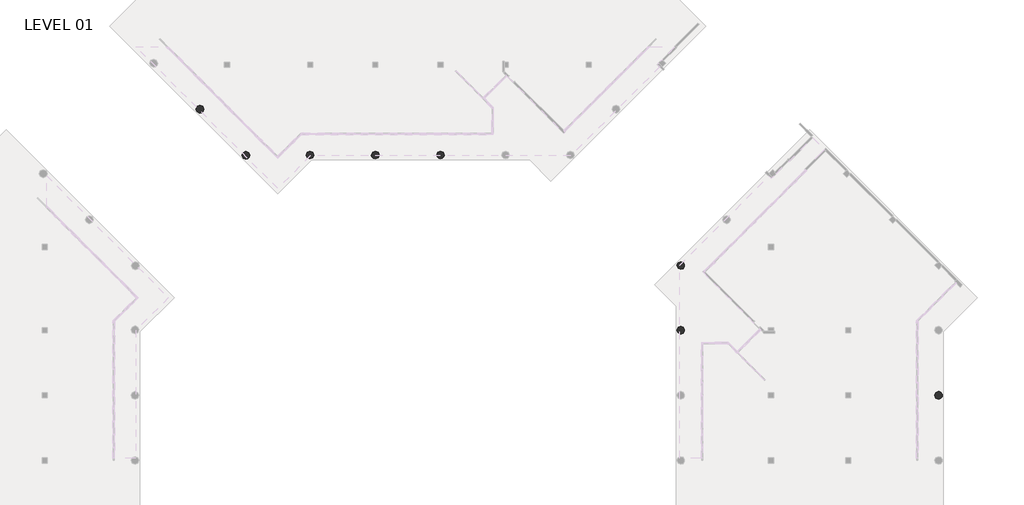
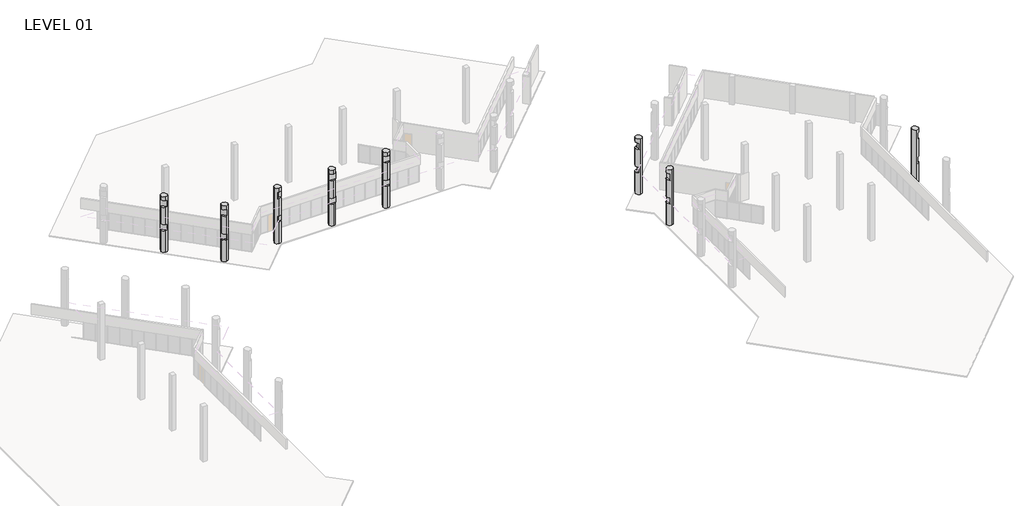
# One storey, part 22 of 24: 8 columns.
"""IFC4 building model written with IfcOpenShell, lengths in millimetres."""

from ifc_helpers import new_model, si_unit, frame, origin, place, context, project, spatial, circle_curve, element, save
from ifc_brep_helpers import plane_surface, cylinder_surface, advanced_brep

model = new_model("IFC4")

# Units and contexts
model_context = context("Model", 3, world=origin())
ifc_project = project(units=[si_unit("LENGTHUNIT", "METRE", prefix="MILLI")], contexts=[model_context])

# Site, building, storey
site = spatial("IfcSite", under=ifc_project)
building = spatial("IfcBuilding", under=site)
storey = spatial("IfcBuildingStorey", under=building, Name="LEVEL 01", Elevation=0.0)

# Columns
placement = place(None, origin())
element("IfcColumn", 1, ObjectType="Round Column : 36\" Diameter", at=placement, inside=storey, context=model_context, shape_type="AdvancedBrep", body=[
    advanced_brep(
    [(61765.4347164, 76983.0834906, 0.0), (61765.4347164, 76068.6834906, 0.0), (61308.2347164, 76525.8834906, 0.0), (61765.4347164, 76983.0834906, 3225.8), (61962.4716429, 76938.446564, 3225.8), (61962.4716429, 76938.446564, 4140.2), (61765.4347164, 76983.0834906, 4140.2), (61765.4347164, 76983.0834906, 6731.0), (61962.4716429, 76938.446564, 6731.0), (61962.4716429, 76938.446564, 7721.6), (61765.4347164, 76983.0834906, 7721.6), (61765.4347164, 76983.0834906, 8280.4), (61765.4347164, 76068.6834906, 8280.4), (61308.2347164, 76525.8834906, 3225.8), (61442.145496, 76849.1727109, 3225.8), (61308.2347164, 76525.8834906, 8280.4), (61308.2347164, 76525.8834906, 7721.6), (61613.0347164, 76094.8311968, 7721.6), (61613.0347164, 76094.8311968, 6731.0), (61308.2347164, 76525.8834906, 6731.0), (61308.2347164, 76525.8834906, 4140.2), (61352.8716429, 76328.846564, 4140.2), (61613.0347164, 76094.8311968, 4140.2), (61613.0347164, 76094.8311968, 3225.8), (61352.8716429, 76328.846564, 3225.8), (61613.0347164, 76956.9357844, 6731.0), (61613.0347164, 76589.0096375, 6731.0), (61613.0347164, 76589.0096375, 7721.6), (61613.0347164, 76956.9357844, 7721.6), (61442.145496, 76849.1727109, 6731.0), (61442.145496, 76849.1727109, 7721.6), (61613.0347164, 76589.0096375, 3225.8), (61613.0347164, 76589.0096375, 4140.2), (61442.145496, 76849.1727109, 4140.2)],
    [
        (0, 1, circle_curve(frame((61765.4347164, 76525.8834906, 0.0), z_axis=(0.0, 0.0, -1.0), x_axis=(0.0, -1.0, 0.0)), 457.2)),
        (1, 2, circle_curve(frame((61765.4347164, 76525.8834906, 0.0), z_axis=(0.0, 0.0, -1.0), x_axis=(0.0, -1.0, 0.0)), 457.2)),
        (2, 0, circle_curve(frame((61765.4347164, 76525.8834906, 0.0), z_axis=(0.0, 0.0, -1.0), x_axis=(0.0, -1.0, 0.0)), 457.2)),
        (0, 3),
        (3, 4, circle_curve(frame((61765.4347164, 76525.8834906, 3225.8), z_axis=(0.0, 0.0, -1.0), x_axis=(0.0, -1.0, 0.0)), 457.2)),
        (4, 5),
        (5, 6, circle_curve(frame((61765.4347164, 76525.8834906, 4140.2), z_axis=(0.0, 0.0, 1.0), x_axis=(0.0, -1.0, 0.0)), 457.2)),
        (6, 7),
        (7, 8, circle_curve(frame((61765.4347164, 76525.8834906, 6731.0), z_axis=(0.0, 0.0, -1.0), x_axis=(0.0, -1.0, 0.0)), 457.2)),
        (8, 9),
        (9, 10, circle_curve(frame((61765.4347164, 76525.8834906, 7721.6), z_axis=(0.0, 0.0, 1.0), x_axis=(0.0, -1.0, 0.0)), 457.2)),
        (10, 11),
        (11, 12, circle_curve(frame((61765.4347164, 76525.8834906, 8280.4), z_axis=(0.0, 0.0, -1.0), x_axis=(0.0, -1.0, 0.0)), 457.2)),
        (12, 1),
        (2, 13),
        (13, 14, circle_curve(frame((61765.4347164, 76525.8834906, 3225.8), z_axis=(0.0, 0.0, -1.0), x_axis=(0.0, -1.0, 0.0)), 457.2)),
        (14, 3, circle_curve(frame((61765.4347164, 76525.8834906, 3225.8), z_axis=(0.0, 0.0, -1.0), x_axis=(0.0, -1.0, 0.0)), 457.2)),
        (12, 15, circle_curve(frame((61765.4347164, 76525.8834906, 8280.4), z_axis=(0.0, 0.0, -1.0), x_axis=(0.0, -1.0, 0.0)), 457.2)),
        (15, 16),
        (16, 17, circle_curve(frame((61765.4347164, 76525.8834906, 7721.6), z_axis=(0.0, 0.0, 1.0), x_axis=(0.0, -1.0, 0.0)), 457.2)),
        (17, 18),
        (18, 19, circle_curve(frame((61765.4347164, 76525.8834906, 6731.0), z_axis=(0.0, 0.0, -1.0), x_axis=(0.0, -1.0, 0.0)), 457.2)),
        (19, 20),
        (20, 21, circle_curve(frame((61765.4347164, 76525.8834906, 4140.2), z_axis=(0.0, 0.0, 1.0), x_axis=(0.0, -1.0, 0.0)), 457.2)),
        (21, 22, circle_curve(frame((61765.4347164, 76525.8834906, 4140.2), z_axis=(0.0, 0.0, 1.0), x_axis=(0.0, -1.0, 0.0)), 457.2)),
        (22, 23),
        (23, 24, circle_curve(frame((61765.4347164, 76525.8834906, 3225.8), z_axis=(0.0, 0.0, -1.0), x_axis=(0.0, -1.0, 0.0)), 457.2)),
        (24, 13, circle_curve(frame((61765.4347164, 76525.8834906, 3225.8), z_axis=(0.0, 0.0, -1.0), x_axis=(0.0, -1.0, 0.0)), 457.2)),
        (11, 15, circle_curve(frame((61765.4347164, 76525.8834906, 8280.4), z_axis=(0.0, 0.0, 1.0), x_axis=(0.0, -1.0, 0.0)), 457.2)),
        (7, 25, circle_curve(frame((61765.4347164, 76525.8834906, 6731.0), z_axis=(0.0, 0.0, 1.0), x_axis=(0.0, -1.0, 0.0)), 457.2)),
        (25, 26),
        (26, 8),
        (9, 27),
        (27, 28),
        (28, 10, circle_curve(frame((61765.4347164, 76525.8834906, 7721.6), z_axis=(0.0, 0.0, -1.0), x_axis=(0.0, -1.0, 0.0)), 457.2)),
        (17, 27),
        (27, 26),
        (26, 18),
        (29, 19, circle_curve(frame((61765.4347164, 76525.8834906, 6731.0), z_axis=(0.0, 0.0, 1.0), x_axis=(0.0, -1.0, 0.0)), 457.2)),
        (25, 29, circle_curve(frame((61765.4347164, 76525.8834906, 6731.0), z_axis=(0.0, 0.0, 1.0), x_axis=(0.0, -1.0, 0.0)), 457.2)),
        (16, 30, circle_curve(frame((61765.4347164, 76525.8834906, 7721.6), z_axis=(0.0, 0.0, -1.0), x_axis=(0.0, -1.0, 0.0)), 457.2)),
        (30, 28, circle_curve(frame((61765.4347164, 76525.8834906, 7721.6), z_axis=(0.0, 0.0, -1.0), x_axis=(0.0, -1.0, 0.0)), 457.2)),
        (4, 31),
        (31, 32),
        (32, 5),
        (24, 31),
        (32, 21),
        (20, 33, circle_curve(frame((61765.4347164, 76525.8834906, 4140.2), z_axis=(0.0, 0.0, -1.0), x_axis=(0.0, -1.0, 0.0)), 457.2)),
        (33, 6, circle_curve(frame((61765.4347164, 76525.8834906, 4140.2), z_axis=(0.0, 0.0, -1.0), x_axis=(0.0, -1.0, 0.0)), 457.2)),
        (31, 23),
        (22, 32),
    ],
    [
        plane_surface(frame((61765.4347164, 76068.6834906, 0.0), z_axis=(0.0, 0.0, -1.0), x_axis=(1.0, 0.0, 0.0))),
        cylinder_surface(frame((61765.4347164, 76525.8834906, 0.0), z_axis=(0.0, 0.0, 1.0), x_axis=(0.0, -1.0, 0.0)), 457.2),
        plane_surface(frame((61765.4347164, 76068.6834906, 8280.4), z_axis=(0.0, 0.0, 1.0), x_axis=(-1.0, 0.0, 0.0))),
        plane_surface(frame((76742.0966429, 92149.1238578, 6731.0), z_axis=(0.0, 0.0, 1.0000000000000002), x_axis=(0.7071067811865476, -0.7071067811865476, 0.0))),
        plane_surface(frame((61352.8716429, 76759.8988578, 7721.6), z_axis=(0.0, 0.0, -1.0000000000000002), x_axis=(0.7071067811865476, -0.7071067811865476, 0.0))),
        plane_surface(frame((61613.0347164, 71810.4559648, 6731.0), z_axis=(-1.0, 0.0, 0.0), x_axis=(0.0, 1.0, 0.0))),
        plane_surface(frame((61308.2347164, 76652.1357844, 6731.0), z_axis=(0.0, 0.0, 1.0), x_axis=(1.0, 0.0, 0.0))),
        plane_surface(frame((61308.2347164, 46172.1357844, 7721.6), z_axis=(0.0, 0.0, -1.0), x_axis=(1.0, 0.0, 0.0))),
        plane_surface(frame((65300.0829574, 80276.0578785, 3225.8), z_axis=(-0.7071067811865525, 0.7071067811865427, 0.0), x_axis=(0.7071067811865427, 0.7071067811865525, 0.0))),
        plane_surface(frame((71900.9693491, 87307.996564, 3225.8), z_axis=(0.0, 0.0, 1.0000000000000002), x_axis=(0.7071067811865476, -0.7071067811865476, 0.0))),
        plane_surface(frame((58963.5948066, 74370.6220215, 4140.2), z_axis=(0.0, 0.0, -1.0000000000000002), x_axis=(0.7071067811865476, -0.7071067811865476, 0.0))),
        plane_surface(frame((61613.0347164, 71810.4559648, 3225.8), z_axis=(-1.0, 0.0, 0.0), x_axis=(0.0, 1.0, 0.0))),
        plane_surface(frame((61308.2347164, 76652.1357844, 3225.8), z_axis=(0.0, 0.0, 1.0), x_axis=(1.0, 0.0, 0.0))),
        plane_surface(frame((61308.2347164, 46172.1357844, 4140.2), z_axis=(0.0, 0.0, -1.0), x_axis=(1.0, 0.0, 0.0))),
        plane_surface(frame((76955.4438143, 91931.4187354, 6731.0), z_axis=(-0.7071067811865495, 0.7071067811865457, 0.0), x_axis=(0.7071067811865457, 0.7071067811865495, 0.0))),
    ],
    [
        (0, [[1, 2, 3]]),
        (1, [[-1, 4, 5, 6, 7, 8, 9, 10, 11, 12, 13, 14]]),
        (1, [[-3, 15, 16, 17, -4]]),
        (1, [[-2, -14, 18, 19, 20, 21, 22, 23, 24, 25, 26, 27, 28, -15]]),
        (2, [[-13, 29, -18]]),
        (3, [[-9, 30, 31, 32]]),
        (4, [[-11, 33, 34, 35]]),
        (5, [[-21, 36, 37, 38]]),
        (6, [[39, -22, -38, -31, 40]]),
        (7, [[41, 42, -34, -36, -20]]),
        (1, [[-29, -12, -35, -42, -41, -19]]),
        (8, [[-6, 43, 44, 45]]),
        (9, [[-5, -17, -16, -28, 46, -43]]),
        (10, [[-7, -45, 47, -24, 48, 49]]),
        (1, [[-30, -8, -49, -48, -23, -39, -40]]),
        (11, [[50, -26, 51, -44]]),
        (12, [[-50, -46, -27]]),
        (13, [[-51, -25, -47]]),
        (14, [[-32, -37, -33, -10]]),
    ],
),
])
element("IfcColumn", 2, ObjectType="Round Column : 36\" Diameter", at=placement, inside=storey, context=model_context, shape_type="AdvancedBrep", body=[
    advanced_brep(
    [(61765.4347164, 69405.1675885, 0.0), (61765.4347164, 68490.7675885, 0.0), (61308.2347164, 68947.9675885, 0.0), (61765.4347164, 69405.1675885, 8280.4), (61765.4347164, 68490.7675885, 8280.4), (61308.2347164, 68947.9675885, 3225.8), (61613.0347164, 69379.0198823, 3225.8), (61613.0347164, 69379.0198823, 4140.2), (61308.2347164, 68947.9675885, 4140.2), (61308.2347164, 68947.9675885, 6731.0), (61613.0347164, 69379.0198823, 6731.0), (61613.0347164, 69379.0198823, 7721.6), (61308.2347164, 68947.9675885, 7721.6), (61308.2347164, 68947.9675885, 8280.4), (61613.0347164, 68516.9152947, 7721.6), (61613.0347164, 68516.9152947, 6731.0), (61613.0347164, 68516.9152947, 4140.2), (61613.0347164, 68516.9152947, 3225.8)],
    [
        (0, 1, circle_curve(frame((61765.4347164, 68947.9675885, 0.0), z_axis=(0.0, 0.0, -1.0), x_axis=(0.0, -1.0, 0.0)), 457.2)),
        (1, 2, circle_curve(frame((61765.4347164, 68947.9675885, 0.0), z_axis=(0.0, 0.0, -1.0), x_axis=(0.0, -1.0, 0.0)), 457.2)),
        (2, 0, circle_curve(frame((61765.4347164, 68947.9675885, 0.0), z_axis=(0.0, 0.0, -1.0), x_axis=(0.0, -1.0, 0.0)), 457.2)),
        (0, 3),
        (3, 4, circle_curve(frame((61765.4347164, 68947.9675885, 8280.4), z_axis=(0.0, 0.0, -1.0), x_axis=(0.0, -1.0, 0.0)), 457.2)),
        (4, 1),
        (2, 5),
        (5, 6, circle_curve(frame((61765.4347164, 68947.9675885, 3225.8), z_axis=(0.0, 0.0, -1.0), x_axis=(0.0, -1.0, 0.0)), 457.2)),
        (6, 7),
        (7, 8, circle_curve(frame((61765.4347164, 68947.9675885, 4140.2), z_axis=(0.0, 0.0, 1.0), x_axis=(0.0, -1.0, 0.0)), 457.2)),
        (8, 9),
        (9, 10, circle_curve(frame((61765.4347164, 68947.9675885, 6731.0), z_axis=(0.0, 0.0, -1.0), x_axis=(0.0, -1.0, 0.0)), 457.2)),
        (10, 11),
        (11, 12, circle_curve(frame((61765.4347164, 68947.9675885, 7721.6), z_axis=(0.0, 0.0, 1.0), x_axis=(0.0, -1.0, 0.0)), 457.2)),
        (12, 13),
        (13, 3, circle_curve(frame((61765.4347164, 68947.9675885, 8280.4), z_axis=(0.0, 0.0, -1.0), x_axis=(0.0, -1.0, 0.0)), 457.2)),
        (4, 13, circle_curve(frame((61765.4347164, 68947.9675885, 8280.4), z_axis=(0.0, 0.0, -1.0), x_axis=(0.0, -1.0, 0.0)), 457.2)),
        (12, 14, circle_curve(frame((61765.4347164, 68947.9675885, 7721.6), z_axis=(0.0, 0.0, 1.0), x_axis=(0.0, -1.0, 0.0)), 457.2)),
        (14, 15),
        (15, 9, circle_curve(frame((61765.4347164, 68947.9675885, 6731.0), z_axis=(0.0, 0.0, -1.0), x_axis=(0.0, -1.0, 0.0)), 457.2)),
        (8, 16, circle_curve(frame((61765.4347164, 68947.9675885, 4140.2), z_axis=(0.0, 0.0, 1.0), x_axis=(0.0, -1.0, 0.0)), 457.2)),
        (16, 17),
        (17, 5, circle_curve(frame((61765.4347164, 68947.9675885, 3225.8), z_axis=(0.0, 0.0, -1.0), x_axis=(0.0, -1.0, 0.0)), 457.2)),
        (6, 17),
        (16, 7),
        (10, 15),
        (14, 11),
    ],
    [
        plane_surface(frame((61765.4347164, 68490.7675885, 0.0), z_axis=(0.0, 0.0, -1.0), x_axis=(1.0, 0.0, 0.0))),
        cylinder_surface(frame((61765.4347164, 68947.9675885, 0.0), z_axis=(0.0, 0.0, 1.0), x_axis=(0.0, -1.0, 0.0)), 457.2),
        plane_surface(frame((61765.4347164, 68490.7675885, 8280.4), z_axis=(0.0, 0.0, 1.0), x_axis=(-1.0, 0.0, 0.0))),
        plane_surface(frame((61613.0347164, 71810.4559648, 3225.8), z_axis=(-1.0, 0.0, 0.0), x_axis=(0.0, 1.0, 0.0))),
        plane_surface(frame((61308.2347164, 76652.1357844, 3225.8), z_axis=(0.0, 0.0, 1.0), x_axis=(1.0, 0.0, 0.0))),
        plane_surface(frame((61308.2347164, 46172.1357844, 4140.2), z_axis=(0.0, 0.0, -1.0), x_axis=(1.0, 0.0, 0.0))),
        plane_surface(frame((61613.0347164, 71810.4559648, 6731.0), z_axis=(-1.0, 0.0, 0.0), x_axis=(0.0, 1.0, 0.0))),
        plane_surface(frame((61308.2347164, 76652.1357844, 6731.0), z_axis=(0.0, 0.0, 1.0), x_axis=(1.0, 0.0, 0.0))),
        plane_surface(frame((61308.2347164, 46172.1357844, 7721.6), z_axis=(0.0, 0.0, -1.0), x_axis=(1.0, 0.0, 0.0))),
    ],
    [
        (0, [[1, 2, 3]]),
        (1, [[-1, 4, 5, 6]]),
        (1, [[-3, 7, 8, 9, 10, 11, 12, 13, 14, 15, 16, -4]]),
        (1, [[-2, -6, 17, -15, 18, 19, 20, -11, 21, 22, 23, -7]]),
        (2, [[-5, -16, -17]]),
        (3, [[-9, 24, -22, 25]]),
        (4, [[-8, -23, -24]]),
        (5, [[-10, -25, -21]]),
        (6, [[26, -19, 27, -13]]),
        (7, [[-26, -12, -20]]),
        (8, [[-27, -18, -14]]),
    ],
),
])
element("IfcColumn", 3, ObjectType="Round Column : 36\" Diameter", at=placement, inside=storey, context=model_context, shape_type="AdvancedBrep", body=[
    advanced_brep(
    [(91934.2847164, 61785.1675885, 0.0), (91934.2847164, 60870.7675885, 0.0), (91477.0847164, 61327.9675885, 0.0), (91934.2847164, 61785.1675885, 8280.4), (91934.2847164, 60870.7675885, 8280.4), (92086.6847164, 60896.9152947, 3225.8), (92086.6847164, 60896.9152947, 4140.2), (92391.4847164, 61327.9675885, 4140.2), (92086.6847164, 61759.0198823, 4140.2), (92086.6847164, 61759.0198823, 3225.8), (92391.4847164, 61327.9675885, 3225.8), (92086.6847164, 60896.9152947, 6731.0), (92086.6847164, 60896.9152947, 7721.6), (92391.4847164, 61327.9675885, 7721.6), (92086.6847164, 61759.0198823, 7721.6), (92086.6847164, 61759.0198823, 6731.0), (92391.4847164, 61327.9675885, 6731.0), (91477.0847164, 61327.9675885, 8280.4)],
    [
        (0, 1, circle_curve(frame((91934.2847164, 61327.9675885, 0.0), z_axis=(0.0, 0.0, -1.0), x_axis=(0.0, -1.0, 0.0)), 457.2)),
        (1, 2, circle_curve(frame((91934.2847164, 61327.9675885, 0.0), z_axis=(0.0, 0.0, -1.0), x_axis=(0.0, -1.0, 0.0)), 457.2)),
        (2, 0, circle_curve(frame((91934.2847164, 61327.9675885, 0.0), z_axis=(0.0, 0.0, -1.0), x_axis=(0.0, -1.0, 0.0)), 457.2)),
        (0, 3),
        (3, 4, circle_curve(frame((91934.2847164, 61327.9675885, 8280.4), z_axis=(0.0, 0.0, -1.0), x_axis=(0.0, -1.0, 0.0)), 457.2)),
        (4, 1),
        (5, 6),
        (6, 7, circle_curve(frame((91934.2847164, 61327.9675885, 4140.2), z_axis=(0.0, 0.0, 1.0), x_axis=(0.0, -1.0, 0.0)), 457.2)),
        (7, 8, circle_curve(frame((91934.2847164, 61327.9675885, 4140.2), z_axis=(0.0, 0.0, 1.0), x_axis=(0.0, -1.0, 0.0)), 457.2)),
        (8, 9),
        (9, 10, circle_curve(frame((91934.2847164, 61327.9675885, 3225.8), z_axis=(0.0, 0.0, -1.0), x_axis=(0.0, -1.0, 0.0)), 457.2)),
        (10, 5, circle_curve(frame((91934.2847164, 61327.9675885, 3225.8), z_axis=(0.0, 0.0, -1.0), x_axis=(0.0, -1.0, 0.0)), 457.2)),
        (11, 12),
        (12, 13, circle_curve(frame((91934.2847164, 61327.9675885, 7721.6), z_axis=(0.0, 0.0, 1.0), x_axis=(0.0, -1.0, 0.0)), 457.2)),
        (13, 14, circle_curve(frame((91934.2847164, 61327.9675885, 7721.6), z_axis=(0.0, 0.0, 1.0), x_axis=(0.0, -1.0, 0.0)), 457.2)),
        (14, 15),
        (15, 16, circle_curve(frame((91934.2847164, 61327.9675885, 6731.0), z_axis=(0.0, 0.0, -1.0), x_axis=(0.0, -1.0, 0.0)), 457.2)),
        (16, 11, circle_curve(frame((91934.2847164, 61327.9675885, 6731.0), z_axis=(0.0, 0.0, -1.0), x_axis=(0.0, -1.0, 0.0)), 457.2)),
        (2, 17),
        (17, 3, circle_curve(frame((91934.2847164, 61327.9675885, 8280.4), z_axis=(0.0, 0.0, -1.0), x_axis=(0.0, -1.0, 0.0)), 457.2)),
        (4, 17, circle_curve(frame((91934.2847164, 61327.9675885, 8280.4), z_axis=(0.0, 0.0, -1.0), x_axis=(0.0, -1.0, 0.0)), 457.2)),
        (5, 9),
        (8, 6),
        (11, 15),
        (14, 12),
    ],
    [
        plane_surface(frame((91934.2847164, 60870.7675885, 0.0), z_axis=(0.0, 0.0, -1.0), x_axis=(1.0, 0.0, 0.0))),
        cylinder_surface(frame((91934.2847164, 61327.9675885, 0.0), z_axis=(0.0, 0.0, 1.0), x_axis=(0.0, -1.0, 0.0)), 457.2),
        plane_surface(frame((91934.2847164, 60870.7675885, 8280.4), z_axis=(0.0, 0.0, 1.0), x_axis=(-1.0, 0.0, 0.0))),
        plane_surface(frame((92086.6847164, 38320.6732457, 3225.8), z_axis=(1.0, 0.0, 0.0), x_axis=(0.0, -1.0, 0.0))),
        plane_surface(frame((92391.4847164, 38383.7993926, 3225.8), z_axis=(0.0, 0.0, 1.0), x_axis=(-1.0, 0.0, 0.0))),
        plane_surface(frame((92391.4847164, 68863.7993926, 4140.2), z_axis=(0.0, 0.0, -1.0), x_axis=(-1.0, 0.0, 0.0))),
        plane_surface(frame((92086.6847164, 38320.6732457, 6731.0), z_axis=(1.0, 0.0, 0.0), x_axis=(0.0, -1.0, 0.0))),
        plane_surface(frame((92391.4847164, 38383.7993926, 6731.0), z_axis=(0.0, 0.0, 1.0), x_axis=(-1.0, 0.0, 0.0))),
        plane_surface(frame((92391.4847164, 68863.7993926, 7721.6), z_axis=(0.0, 0.0, -1.0), x_axis=(-1.0, 0.0, 0.0))),
    ],
    [
        (0, [[1, 2, 3]]),
        (1, [[-1, 4, 5, 6], [7, 8, 9, 10, 11, 12], [13, 14, 15, 16, 17, 18]]),
        (1, [[-3, 19, 20, -4]]),
        (1, [[-2, -6, 21, -19]]),
        (2, [[-5, -20, -21]]),
        (3, [[-7, 22, -10, 23]]),
        (4, [[-12, -11, -22]]),
        (5, [[-9, -8, -23]]),
        (6, [[24, -16, 25, -13]]),
        (7, [[-24, -18, -17]]),
        (8, [[-25, -15, -14]]),
    ],
),
])
element("IfcColumn", 4, ObjectType="Round Column : 36\" Diameter", at=placement, inside=storey, context=model_context, shape_type="AdvancedBrep", body=[
    advanced_brep(
    [(33178.75, 89457.4523049, 0.0), (34093.15, 89457.4523049, 0.0), (33635.95, 89000.2523049, 0.0), (33178.75, 89457.4523049, 8280.4), (34093.15, 89457.4523049, 8280.4), (33635.95, 89000.2523049, 8280.4), (33635.95, 89000.2523049, 7721.6), (34067.0022938, 89305.0523049, 7721.6), (34067.0022938, 89305.0523049, 6731.0), (33635.95, 89000.2523049, 6731.0), (33635.95, 89000.2523049, 4140.2), (34067.0022938, 89305.0523049, 4140.2), (34067.0022938, 89305.0523049, 3225.8), (33635.95, 89000.2523049, 3225.8), (33204.8977062, 89305.0523049, 3225.8), (33204.8977062, 89305.0523049, 4140.2), (33204.8977062, 89305.0523049, 6731.0), (33204.8977062, 89305.0523049, 7721.6)],
    [
        (0, 1, circle_curve(frame((33635.95, 89457.4523049, 0.0), z_axis=(0.0, 0.0, -1.0), x_axis=(-1.0, 0.0, 0.0)), 457.2)),
        (1, 2, circle_curve(frame((33635.95, 89457.4523049, 0.0), z_axis=(0.0, 0.0, -1.0), x_axis=(-1.0, 0.0, 0.0)), 457.2)),
        (2, 0, circle_curve(frame((33635.95, 89457.4523049, 0.0), z_axis=(0.0, 0.0, -1.0), x_axis=(-1.0, 0.0, 0.0)), 457.2)),
        (0, 3),
        (3, 4, circle_curve(frame((33635.95, 89457.4523049, 8280.4), z_axis=(0.0, 0.0, -1.0), x_axis=(-1.0, 0.0, 0.0)), 457.2)),
        (4, 1),
        (4, 5, circle_curve(frame((33635.95, 89457.4523049, 8280.4), z_axis=(0.0, 0.0, -1.0), x_axis=(-1.0, 0.0, 0.0)), 457.2)),
        (5, 6),
        (6, 7, circle_curve(frame((33635.95, 89457.4523049, 7721.6), z_axis=(0.0, 0.0, 1.0), x_axis=(-1.0, 0.0, 0.0)), 457.2)),
        (7, 8),
        (8, 9, circle_curve(frame((33635.95, 89457.4523049, 6731.0), z_axis=(0.0, 0.0, -1.0), x_axis=(-1.0, 0.0, 0.0)), 457.2)),
        (9, 10),
        (10, 11, circle_curve(frame((33635.95, 89457.4523049, 4140.2), z_axis=(0.0, 0.0, 1.0), x_axis=(-1.0, 0.0, 0.0)), 457.2)),
        (11, 12),
        (12, 13, circle_curve(frame((33635.95, 89457.4523049, 3225.8), z_axis=(0.0, 0.0, -1.0), x_axis=(-1.0, 0.0, 0.0)), 457.2)),
        (13, 2),
        (13, 14, circle_curve(frame((33635.95, 89457.4523049, 3225.8), z_axis=(0.0, 0.0, -1.0), x_axis=(-1.0, 0.0, 0.0)), 457.2)),
        (14, 15),
        (15, 10, circle_curve(frame((33635.95, 89457.4523049, 4140.2), z_axis=(0.0, 0.0, 1.0), x_axis=(-1.0, 0.0, 0.0)), 457.2)),
        (9, 16, circle_curve(frame((33635.95, 89457.4523049, 6731.0), z_axis=(0.0, 0.0, -1.0), x_axis=(-1.0, 0.0, 0.0)), 457.2)),
        (16, 17),
        (17, 6, circle_curve(frame((33635.95, 89457.4523049, 7721.6), z_axis=(0.0, 0.0, 1.0), x_axis=(-1.0, 0.0, 0.0)), 457.2)),
        (5, 3, circle_curve(frame((33635.95, 89457.4523049, 8280.4), z_axis=(0.0, 0.0, -1.0), x_axis=(-1.0, 0.0, 0.0)), 457.2)),
        (11, 15),
        (14, 12),
        (7, 17),
        (16, 8),
    ],
    [
        plane_surface(frame((33178.75, 89457.4523049, 0.0), z_axis=(0.0, 0.0, -1.0), x_axis=(0.0, 1.0, 0.0))),
        cylinder_surface(frame((33635.95, 89457.4523049, 0.0), z_axis=(0.0, 0.0, 1.0), x_axis=(-1.0, 0.0, 0.0)), 457.2),
        plane_surface(frame((33178.75, 89457.4523049, 8280.4), z_axis=(0.0, 0.0, 1.0), x_axis=(0.0, -1.0, 0.0))),
        plane_surface(frame((44118.4383763, 89305.0523049, 3225.8), z_axis=(0.0, -1.0, 0.0), x_axis=(-1.0, 0.0, 0.0))),
        plane_surface(frame((48960.1181959, 89305.0523049, 3225.8), z_axis=(0.0, 0.0, 1.0), x_axis=(0.0, -1.0, 0.0))),
        plane_surface(frame((18480.1181959, 89305.0523049, 4140.2), z_axis=(0.0, 0.0, -1.0), x_axis=(0.0, -1.0, 0.0))),
        plane_surface(frame((44118.4383763, 89305.0523049, 6731.0), z_axis=(0.0, -1.0, 0.0), x_axis=(-1.0, 0.0, 0.0))),
        plane_surface(frame((48960.1181959, 89305.0523049, 6731.0), z_axis=(0.0, 0.0, 1.0), x_axis=(0.0, -1.0, 0.0))),
        plane_surface(frame((18480.1181959, 89305.0523049, 7721.6), z_axis=(0.0, 0.0, -1.0), x_axis=(0.0, -1.0, 0.0))),
    ],
    [
        (0, [[1, 2, 3]]),
        (1, [[-1, 4, 5, 6]]),
        (1, [[-2, -6, 7, 8, 9, 10, 11, 12, 13, 14, 15, 16]]),
        (1, [[-3, -16, 17, 18, 19, -12, 20, 21, 22, -8, 23, -4]]),
        (2, [[-5, -23, -7]]),
        (3, [[-14, 24, -18, 25]]),
        (4, [[-15, -25, -17]]),
        (5, [[-13, -19, -24]]),
        (6, [[26, -21, 27, -10]]),
        (7, [[-27, -20, -11]]),
        (8, [[-26, -9, -22]]),
    ],
),
])
element("IfcColumn", 5, ObjectType="Round Column : 36\" Diameter", at=placement, inside=storey, context=model_context, shape_type="AdvancedBrep", body=[
    advanced_brep(
    [(25558.75, 89457.4523049, 0.0), (26473.15, 89457.4523049, 0.0), (26015.95, 89000.2523049, 0.0), (25558.75, 89457.4523049, 8280.4), (26473.15, 89457.4523049, 8280.4), (26015.95, 89000.2523049, 8280.4), (26015.95, 89000.2523049, 7721.6), (26447.0022938, 89305.0523049, 7721.6), (26447.0022938, 89305.0523049, 6731.0), (26015.95, 89000.2523049, 6731.0), (26015.95, 89000.2523049, 4140.2), (26447.0022938, 89305.0523049, 4140.2), (26447.0022938, 89305.0523049, 3225.8), (26015.95, 89000.2523049, 3225.8), (25584.8977062, 89305.0523049, 3225.8), (25584.8977062, 89305.0523049, 4140.2), (25584.8977062, 89305.0523049, 6731.0), (25584.8977062, 89305.0523049, 7721.6)],
    [
        (0, 1, circle_curve(frame((26015.95, 89457.4523049, 0.0), z_axis=(0.0, 0.0, -1.0), x_axis=(-1.0, 0.0, 0.0)), 457.2)),
        (1, 2, circle_curve(frame((26015.95, 89457.4523049, 0.0), z_axis=(0.0, 0.0, -1.0), x_axis=(-1.0, 0.0, 0.0)), 457.2)),
        (2, 0, circle_curve(frame((26015.95, 89457.4523049, 0.0), z_axis=(0.0, 0.0, -1.0), x_axis=(-1.0, 0.0, 0.0)), 457.2)),
        (0, 3),
        (3, 4, circle_curve(frame((26015.95, 89457.4523049, 8280.4), z_axis=(0.0, 0.0, -1.0), x_axis=(-1.0, 0.0, 0.0)), 457.2)),
        (4, 1),
        (4, 5, circle_curve(frame((26015.95, 89457.4523049, 8280.4), z_axis=(0.0, 0.0, -1.0), x_axis=(-1.0, 0.0, 0.0)), 457.2)),
        (5, 6),
        (6, 7, circle_curve(frame((26015.95, 89457.4523049, 7721.6), z_axis=(0.0, 0.0, 1.0), x_axis=(-1.0, 0.0, 0.0)), 457.2)),
        (7, 8),
        (8, 9, circle_curve(frame((26015.95, 89457.4523049, 6731.0), z_axis=(0.0, 0.0, -1.0), x_axis=(-1.0, 0.0, 0.0)), 457.2)),
        (9, 10),
        (10, 11, circle_curve(frame((26015.95, 89457.4523049, 4140.2), z_axis=(0.0, 0.0, 1.0), x_axis=(-1.0, 0.0, 0.0)), 457.2)),
        (11, 12),
        (12, 13, circle_curve(frame((26015.95, 89457.4523049, 3225.8), z_axis=(0.0, 0.0, -1.0), x_axis=(-1.0, 0.0, 0.0)), 457.2)),
        (13, 2),
        (13, 14, circle_curve(frame((26015.95, 89457.4523049, 3225.8), z_axis=(0.0, 0.0, -1.0), x_axis=(-1.0, 0.0, 0.0)), 457.2)),
        (14, 15),
        (15, 10, circle_curve(frame((26015.95, 89457.4523049, 4140.2), z_axis=(0.0, 0.0, 1.0), x_axis=(-1.0, 0.0, 0.0)), 457.2)),
        (9, 16, circle_curve(frame((26015.95, 89457.4523049, 6731.0), z_axis=(0.0, 0.0, -1.0), x_axis=(-1.0, 0.0, 0.0)), 457.2)),
        (16, 17),
        (17, 6, circle_curve(frame((26015.95, 89457.4523049, 7721.6), z_axis=(0.0, 0.0, 1.0), x_axis=(-1.0, 0.0, 0.0)), 457.2)),
        (5, 3, circle_curve(frame((26015.95, 89457.4523049, 8280.4), z_axis=(0.0, 0.0, -1.0), x_axis=(-1.0, 0.0, 0.0)), 457.2)),
        (11, 15),
        (14, 12),
        (7, 17),
        (16, 8),
    ],
    [
        plane_surface(frame((25558.75, 89457.4523049, 0.0), z_axis=(0.0, 0.0, -1.0), x_axis=(0.0, 1.0, 0.0))),
        cylinder_surface(frame((26015.95, 89457.4523049, 0.0), z_axis=(0.0, 0.0, 1.0), x_axis=(-1.0, 0.0, 0.0)), 457.2),
        plane_surface(frame((25558.75, 89457.4523049, 8280.4), z_axis=(0.0, 0.0, 1.0), x_axis=(0.0, -1.0, 0.0))),
        plane_surface(frame((44118.4383763, 89305.0523049, 3225.8), z_axis=(0.0, -1.0, 0.0), x_axis=(-1.0, 0.0, 0.0))),
        plane_surface(frame((48960.1181959, 89305.0523049, 3225.8), z_axis=(0.0, 0.0, 1.0), x_axis=(0.0, -1.0, 0.0))),
        plane_surface(frame((18480.1181959, 89305.0523049, 4140.2), z_axis=(0.0, 0.0, -1.0), x_axis=(0.0, -1.0, 0.0))),
        plane_surface(frame((44118.4383763, 89305.0523049, 6731.0), z_axis=(0.0, -1.0, 0.0), x_axis=(-1.0, 0.0, 0.0))),
        plane_surface(frame((48960.1181959, 89305.0523049, 6731.0), z_axis=(0.0, 0.0, 1.0), x_axis=(0.0, -1.0, 0.0))),
        plane_surface(frame((18480.1181959, 89305.0523049, 7721.6), z_axis=(0.0, 0.0, -1.0), x_axis=(0.0, -1.0, 0.0))),
    ],
    [
        (0, [[1, 2, 3]]),
        (1, [[-1, 4, 5, 6]]),
        (1, [[-2, -6, 7, 8, 9, 10, 11, 12, 13, 14, 15, 16]]),
        (1, [[-3, -16, 17, 18, 19, -12, 20, 21, 22, -8, 23, -4]]),
        (2, [[-5, -23, -7]]),
        (3, [[-14, 24, -18, 25]]),
        (4, [[-15, -25, -17]]),
        (5, [[-13, -19, -24]]),
        (6, [[26, -21, 27, -10]]),
        (7, [[-27, -20, -11]]),
        (8, [[-26, -9, -22]]),
    ],
),
])
element("IfcColumn", 6, ObjectType="Round Column : 36\" Diameter", at=placement, inside=storey, context=model_context, shape_type="AdvancedBrep", body=[
    advanced_brep(
    [(17896.6659021, 89457.4523049, 0.0), (18811.0659021, 89457.4523049, 0.0), (18353.8659021, 89000.2523049, 0.0), (17896.6659021, 89457.4523049, 8280.4), (18811.0659021, 89457.4523049, 8280.4), (18353.8659021, 89000.2523049, 8280.4), (18353.8659021, 89000.2523049, 7721.6), (18784.9181959, 89305.0523049, 7721.6), (18784.9181959, 89305.0523049, 6731.0), (18353.8659021, 89000.2523049, 6731.0), (18353.8659021, 89000.2523049, 4140.2), (18784.9181959, 89305.0523049, 4140.2), (18784.9181959, 89305.0523049, 3225.8), (18353.8659021, 89000.2523049, 3225.8), (18156.8289755, 89044.8892315, 3225.8), (18156.8289755, 89044.8892315, 4140.2), (18156.8289755, 89044.8892315, 6731.0), (18156.8289755, 89044.8892315, 7721.6), (18416.992049, 89305.0523049, 4140.2), (18416.992049, 89305.0523049, 3225.8), (18416.992049, 89305.0523049, 7721.6), (18416.992049, 89305.0523049, 6731.0)],
    [
        (0, 1, circle_curve(frame((18353.8659021, 89457.4523049, 0.0), z_axis=(0.0, 0.0, -1.0), x_axis=(-1.0, 0.0, 0.0)), 457.2)),
        (1, 2, circle_curve(frame((18353.8659021, 89457.4523049, 0.0), z_axis=(0.0, 0.0, -1.0), x_axis=(-1.0, 0.0, 0.0)), 457.2)),
        (2, 0, circle_curve(frame((18353.8659021, 89457.4523049, 0.0), z_axis=(0.0, 0.0, -1.0), x_axis=(-1.0, 0.0, 0.0)), 457.2)),
        (0, 3),
        (3, 4, circle_curve(frame((18353.8659021, 89457.4523049, 8280.4), z_axis=(0.0, 0.0, -1.0), x_axis=(-1.0, 0.0, 0.0)), 457.2)),
        (4, 1),
        (4, 5, circle_curve(frame((18353.8659021, 89457.4523049, 8280.4), z_axis=(0.0, 0.0, -1.0), x_axis=(-1.0, 0.0, 0.0)), 457.2)),
        (5, 6),
        (6, 7, circle_curve(frame((18353.8659021, 89457.4523049, 7721.6), z_axis=(0.0, 0.0, 1.0), x_axis=(-1.0, 0.0, 0.0)), 457.2)),
        (7, 8),
        (8, 9, circle_curve(frame((18353.8659021, 89457.4523049, 6731.0), z_axis=(0.0, 0.0, -1.0), x_axis=(-1.0, 0.0, 0.0)), 457.2)),
        (9, 10),
        (10, 11, circle_curve(frame((18353.8659021, 89457.4523049, 4140.2), z_axis=(0.0, 0.0, 1.0), x_axis=(-1.0, 0.0, 0.0)), 457.2)),
        (11, 12),
        (12, 13, circle_curve(frame((18353.8659021, 89457.4523049, 3225.8), z_axis=(0.0, 0.0, -1.0), x_axis=(-1.0, 0.0, 0.0)), 457.2)),
        (13, 2),
        (13, 14, circle_curve(frame((18353.8659021, 89457.4523049, 3225.8), z_axis=(0.0, 0.0, -1.0), x_axis=(-1.0, 0.0, 0.0)), 457.2)),
        (14, 15),
        (15, 10, circle_curve(frame((18353.8659021, 89457.4523049, 4140.2), z_axis=(0.0, 0.0, 1.0), x_axis=(-1.0, 0.0, 0.0)), 457.2)),
        (9, 16, circle_curve(frame((18353.8659021, 89457.4523049, 6731.0), z_axis=(0.0, 0.0, -1.0), x_axis=(-1.0, 0.0, 0.0)), 457.2)),
        (16, 17),
        (17, 6, circle_curve(frame((18353.8659021, 89457.4523049, 7721.6), z_axis=(0.0, 0.0, 1.0), x_axis=(-1.0, 0.0, 0.0)), 457.2)),
        (5, 3, circle_curve(frame((18353.8659021, 89457.4523049, 8280.4), z_axis=(0.0, 0.0, -1.0), x_axis=(-1.0, 0.0, 0.0)), 457.2)),
        (11, 18),
        (18, 19),
        (19, 12),
        (19, 14),
        (15, 18),
        (20, 21),
        (21, 8),
        (7, 20),
        (21, 16),
        (17, 20),
    ],
    [
        plane_surface(frame((17896.6659021, 89457.4523049, 0.0), z_axis=(0.0, 0.0, -1.0), x_axis=(0.0, 1.0, 0.0))),
        cylinder_surface(frame((18353.8659021, 89457.4523049, 0.0), z_axis=(0.0, 0.0, 1.0), x_axis=(-1.0, 0.0, 0.0)), 457.2),
        plane_surface(frame((17896.6659021, 89457.4523049, 8280.4), z_axis=(0.0, 0.0, 1.0), x_axis=(0.0, -1.0, 0.0))),
        plane_surface(frame((44118.4383763, 89305.0523049, 3225.8), z_axis=(0.0, -1.0, 0.0), x_axis=(-1.0, 0.0, 0.0))),
        plane_surface(frame((48960.1181959, 89305.0523049, 3225.8), z_axis=(0.0, 0.0, 1.0), x_axis=(0.0, -1.0, 0.0))),
        plane_surface(frame((18480.1181959, 89305.0523049, 4140.2), z_axis=(0.0, 0.0, -1.0), x_axis=(0.0, -1.0, 0.0))),
        plane_surface(frame((18327.7181959, 89215.7784518, 3225.8), z_axis=(0.7071067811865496, -0.7071067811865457, 0.0), x_axis=(-0.7071067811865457, -0.7071067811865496, 0.0))),
        plane_surface(frame((44118.4383763, 89305.0523049, 6731.0), z_axis=(0.0, -1.0, 0.0), x_axis=(-1.0, 0.0, 0.0))),
        plane_surface(frame((48960.1181959, 89305.0523049, 6731.0), z_axis=(0.0, 0.0, 1.0), x_axis=(0.0, -1.0, 0.0))),
        plane_surface(frame((18480.1181959, 89305.0523049, 7721.6), z_axis=(0.0, 0.0, -1.0), x_axis=(0.0, -1.0, 0.0))),
        plane_surface(frame((18327.7181959, 89215.7784518, 6731.0), z_axis=(0.7071067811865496, -0.7071067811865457, 0.0), x_axis=(-0.7071067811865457, -0.7071067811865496, 0.0))),
    ],
    [
        (0, [[1, 2, 3]]),
        (1, [[-1, 4, 5, 6]]),
        (1, [[-2, -6, 7, 8, 9, 10, 11, 12, 13, 14, 15, 16]]),
        (1, [[-3, -16, 17, 18, 19, -12, 20, 21, 22, -8, 23, -4]]),
        (2, [[-5, -23, -7]]),
        (3, [[24, 25, 26, -14]]),
        (4, [[-26, 27, -17, -15]]),
        (5, [[-24, -13, -19, 28]]),
        (6, [[-25, -28, -18, -27]]),
        (7, [[29, 30, -10, 31]]),
        (8, [[-30, 32, -20, -11]]),
        (9, [[-31, -9, -22, 33]]),
        (10, [[-29, -33, -21, -32]]),
    ],
),
])
element("IfcColumn", 7, ObjectType="Round Column : 36\" Diameter", at=placement, inside=storey, context=model_context, shape_type="AdvancedBrep", body=[
    advanced_brep(
    [(10390.592049, 89427.6943539, 0.0), (11304.992049, 89427.6943539, 0.0), (10847.792049, 88970.4943539, 0.0), (10390.592049, 89427.6943539, 3225.8), (10435.2289755, 89624.7312804, 3225.8), (10435.2289755, 89624.7312804, 4140.2), (10390.592049, 89427.6943539, 4140.2), (10390.592049, 89427.6943539, 6731.0), (10435.2289755, 89624.7312804, 6731.0), (10435.2289755, 89624.7312804, 7721.6), (10390.592049, 89427.6943539, 7721.6), (10390.592049, 89427.6943539, 8280.4), (11304.992049, 89427.6943539, 8280.4), (10847.792049, 88970.4943539, 8280.4), (10847.792049, 88970.4943539, 7721.6), (11044.8289755, 89015.1312804, 7721.6), (11044.8289755, 89015.1312804, 6731.0), (10847.792049, 88970.4943539, 6731.0), (10847.792049, 88970.4943539, 4140.2), (11044.8289755, 89015.1312804, 4140.2), (11044.8289755, 89015.1312804, 3225.8), (10847.792049, 88970.4943539, 3225.8), (10822.3526382, 88971.2026493, 3225.8), (10524.5028286, 89104.4051335, 3225.8), (10524.5028286, 89104.4051335, 6731.0), (10524.5028286, 89104.4051335, 7721.6), (10955.5551224, 89104.4051335, 3225.8), (10822.3526382, 88971.2026493, 4140.2), (10955.5551224, 89104.4051335, 4140.2), (10524.5028286, 89104.4051335, 4140.2)],
    [
        (0, 1, circle_curve(frame((10847.792049, 89427.6943539, 0.0), z_axis=(0.0, 0.0, -1.0), x_axis=(-1.0, 0.0, 0.0)), 457.2)),
        (1, 2, circle_curve(frame((10847.792049, 89427.6943539, 0.0), z_axis=(0.0, 0.0, -1.0), x_axis=(-1.0, 0.0, 0.0)), 457.2)),
        (2, 0, circle_curve(frame((10847.792049, 89427.6943539, 0.0), z_axis=(0.0, 0.0, -1.0), x_axis=(-1.0, 0.0, 0.0)), 457.2)),
        (0, 3),
        (3, 4, circle_curve(frame((10847.792049, 89427.6943539, 3225.8), z_axis=(0.0, 0.0, -1.0), x_axis=(-1.0, 0.0, 0.0)), 457.2)),
        (4, 5),
        (5, 6, circle_curve(frame((10847.792049, 89427.6943539, 4140.2), z_axis=(0.0, 0.0, 1.0), x_axis=(-1.0, 0.0, 0.0)), 457.2)),
        (6, 7),
        (7, 8, circle_curve(frame((10847.792049, 89427.6943539, 6731.0), z_axis=(0.0, 0.0, -1.0), x_axis=(-1.0, 0.0, 0.0)), 457.2)),
        (8, 9),
        (9, 10, circle_curve(frame((10847.792049, 89427.6943539, 7721.6), z_axis=(0.0, 0.0, 1.0), x_axis=(-1.0, 0.0, 0.0)), 457.2)),
        (10, 11),
        (11, 12, circle_curve(frame((10847.792049, 89427.6943539, 8280.4), z_axis=(0.0, 0.0, -1.0), x_axis=(-1.0, 0.0, 0.0)), 457.2)),
        (12, 1),
        (12, 13, circle_curve(frame((10847.792049, 89427.6943539, 8280.4), z_axis=(0.0, 0.0, -1.0), x_axis=(-1.0, 0.0, 0.0)), 457.2)),
        (13, 14),
        (14, 15, circle_curve(frame((10847.792049, 89427.6943539, 7721.6), z_axis=(0.0, 0.0, 1.0), x_axis=(-1.0, 0.0, 0.0)), 457.2)),
        (15, 16),
        (16, 17, circle_curve(frame((10847.792049, 89427.6943539, 6731.0), z_axis=(0.0, 0.0, -1.0), x_axis=(-1.0, 0.0, 0.0)), 457.2)),
        (17, 18),
        (18, 19, circle_curve(frame((10847.792049, 89427.6943539, 4140.2), z_axis=(0.0, 0.0, 1.0), x_axis=(-1.0, 0.0, 0.0)), 457.2)),
        (19, 20),
        (20, 21, circle_curve(frame((10847.792049, 89427.6943539, 3225.8), z_axis=(0.0, 0.0, -1.0), x_axis=(-1.0, 0.0, 0.0)), 457.2)),
        (21, 2),
        (21, 22, circle_curve(frame((10847.792049, 89427.6943539, 3225.8), z_axis=(0.0, 0.0, -1.0), x_axis=(-1.0, 0.0, 0.0)), 457.2)),
        (22, 23, circle_curve(frame((10847.792049, 89427.6943539, 3225.8), z_axis=(0.0, 0.0, -1.0), x_axis=(-1.0, 0.0, 0.0)), 457.2)),
        (23, 3, circle_curve(frame((10847.792049, 89427.6943539, 3225.8), z_axis=(0.0, 0.0, -1.0), x_axis=(-1.0, 0.0, 0.0)), 457.2)),
        (11, 13, circle_curve(frame((10847.792049, 89427.6943539, 8280.4), z_axis=(0.0, 0.0, 1.0), x_axis=(-1.0, 0.0, 0.0)), 457.2)),
        (15, 9),
        (8, 16),
        (7, 24, circle_curve(frame((10847.792049, 89427.6943539, 6731.0), z_axis=(0.0, 0.0, 1.0), x_axis=(-1.0, 0.0, 0.0)), 457.2)),
        (24, 17, circle_curve(frame((10847.792049, 89427.6943539, 6731.0), z_axis=(0.0, 0.0, 1.0), x_axis=(-1.0, 0.0, 0.0)), 457.2)),
        (14, 25, circle_curve(frame((10847.792049, 89427.6943539, 7721.6), z_axis=(0.0, 0.0, -1.0), x_axis=(-1.0, 0.0, 0.0)), 457.2)),
        (25, 10, circle_curve(frame((10847.792049, 89427.6943539, 7721.6), z_axis=(0.0, 0.0, -1.0), x_axis=(-1.0, 0.0, 0.0)), 457.2)),
        (20, 26),
        (26, 22),
        (18, 27, circle_curve(frame((10847.792049, 89427.6943539, 4140.2), z_axis=(0.0, 0.0, -1.0), x_axis=(-1.0, 0.0, 0.0)), 457.2)),
        (27, 28),
        (28, 19),
        (28, 5),
        (4, 26),
        (26, 28),
        (27, 29, circle_curve(frame((10847.792049, 89427.6943539, 4140.2), z_axis=(0.0, 0.0, -1.0), x_axis=(-1.0, 0.0, 0.0)), 457.2)),
        (29, 6, circle_curve(frame((10847.792049, 89427.6943539, 4140.2), z_axis=(0.0, 0.0, -1.0), x_axis=(-1.0, 0.0, 0.0)), 457.2)),
    ],
    [
        plane_surface(frame((10390.592049, 89427.6943539, 0.0), z_axis=(0.0, 0.0, -1.0), x_axis=(0.0, 1.0, 0.0))),
        cylinder_surface(frame((10847.792049, 89427.6943539, 0.0), z_axis=(0.0, 0.0, 1.0), x_axis=(-1.0, 0.0, 0.0)), 457.2),
        plane_surface(frame((10390.592049, 89427.6943539, 8280.4), z_axis=(0.0, 0.0, 1.0), x_axis=(0.0, -1.0, 0.0))),
        plane_surface(frame((16685.9628061, 83373.9974499, 6731.0), z_axis=(-0.7071067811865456, -0.7071067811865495, 0.0), x_axis=(-0.7071067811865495, 0.7071067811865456, 0.0))),
        plane_surface(frame((14693.7130735, 85366.2471825, 6731.0), z_axis=(0.0, 0.0, 1.0000000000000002), x_axis=(-0.707106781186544, -0.7071067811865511, 0.0))),
        plane_surface(frame((-4589.6801224, 104649.6403784, 7721.6), z_axis=(0.0, 0.0, -1.0000000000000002), x_axis=(-0.707106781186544, -0.7071067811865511, 0.0))),
        plane_surface(frame((14693.7130735, 85366.2471825, 3225.8), z_axis=(0.0, 0.0, 1.0000000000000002), x_axis=(-0.707106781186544, -0.7071067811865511, 0.0))),
        plane_surface(frame((10955.5551224, 89104.4051335, 4140.2), z_axis=(0.0, 0.0, -1.0000000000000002), x_axis=(-0.707106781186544, -0.7071067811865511, 0.0))),
        plane_surface(frame((14801.4761469, 85258.484109, 3225.8), z_axis=(-0.7071067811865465, -0.7071067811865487, 0.0), x_axis=(-0.7071067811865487, 0.7071067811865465, 0.0))),
        plane_surface(frame((10955.5551224, 89104.4051335, 3225.8), z_axis=(0.0, 0.0, 1.0000000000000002), x_axis=(-0.707106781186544, -0.7071067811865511, 0.0))),
        plane_surface(frame((-4589.6801224, 104649.6403784, 4140.2), z_axis=(0.0, 0.0, -1.0000000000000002), x_axis=(-0.7071067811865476, -0.7071067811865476, 0.0))),
    ],
    [
        (0, [[1, 2, 3]]),
        (1, [[-1, 4, 5, 6, 7, 8, 9, 10, 11, 12, 13, 14]]),
        (1, [[-2, -14, 15, 16, 17, 18, 19, 20, 21, 22, 23, 24]]),
        (1, [[-3, -24, 25, 26, 27, -4]]),
        (2, [[-13, 28, -15]]),
        (3, [[29, -10, 30, -18]]),
        (4, [[-9, 31, 32, -19, -30]]),
        (5, [[-11, -29, -17, 33, 34]]),
        (1, [[-28, -12, -34, -33, -16]]),
        (6, [[-23, 35, 36, -25]]),
        (7, [[-21, 37, 38, 39]]),
        (8, [[40, -6, 41, 42]]),
        (9, [[-41, -5, -27, -26, -36]]),
        (10, [[-40, -38, 43, 44, -7]]),
        (1, [[-32, -31, -8, -44, -43, -37, -20]]),
        (8, [[-39, -42, -35, -22]]),
    ],
),
])
element("IfcColumn", 8, ObjectType="Round Column : 36\" Diameter", at=placement, inside=storey, context=model_context, shape_type="AdvancedBrep", body=[
    advanced_brep(
    [(5002.617049, 94815.6693539, 0.0), (5917.017049, 94815.6693539, 0.0), (5459.817049, 94358.4693539, 0.0), (5002.617049, 94815.6693539, 3225.8), (5047.2539755, 95012.7062804, 3225.8), (5047.2539755, 95012.7062804, 4140.2), (5002.617049, 94815.6693539, 4140.2), (5002.617049, 94815.6693539, 6731.0), (5047.2539755, 95012.7062804, 6731.0), (5047.2539755, 95012.7062804, 7721.6), (5002.617049, 94815.6693539, 7721.6), (5002.617049, 94815.6693539, 8280.4), (5917.017049, 94815.6693539, 8280.4), (5459.817049, 94358.4693539, 8280.4), (5459.817049, 94358.4693539, 7721.6), (5656.8539755, 94403.1062804, 7721.6), (5656.8539755, 94403.1062804, 6731.0), (5459.817049, 94358.4693539, 6731.0), (5459.817049, 94358.4693539, 4140.2), (5656.8539755, 94403.1062804, 4140.2), (5656.8539755, 94403.1062804, 3225.8), (5459.817049, 94358.4693539, 3225.8), (5136.5278286, 94492.3801335, 3225.8), (5136.5278286, 94492.3801335, 6731.0), (5136.5278286, 94492.3801335, 7721.6), (5136.5278286, 94492.3801335, 4140.2)],
    [
        (0, 1, circle_curve(frame((5459.817049, 94815.6693539, 0.0), z_axis=(0.0, 0.0, -1.0), x_axis=(-1.0, 0.0, 0.0)), 457.2)),
        (1, 2, circle_curve(frame((5459.817049, 94815.6693539, 0.0), z_axis=(0.0, 0.0, -1.0), x_axis=(-1.0, 0.0, 0.0)), 457.2)),
        (2, 0, circle_curve(frame((5459.817049, 94815.6693539, 0.0), z_axis=(0.0, 0.0, -1.0), x_axis=(-1.0, 0.0, 0.0)), 457.2)),
        (0, 3),
        (3, 4, circle_curve(frame((5459.817049, 94815.6693539, 3225.8), z_axis=(0.0, 0.0, -1.0), x_axis=(-1.0, 0.0, 0.0)), 457.2)),
        (4, 5),
        (5, 6, circle_curve(frame((5459.817049, 94815.6693539, 4140.2), z_axis=(0.0, 0.0, 1.0), x_axis=(-1.0, 0.0, 0.0)), 457.2)),
        (6, 7),
        (7, 8, circle_curve(frame((5459.817049, 94815.6693539, 6731.0), z_axis=(0.0, 0.0, -1.0), x_axis=(-1.0, 0.0, 0.0)), 457.2)),
        (8, 9),
        (9, 10, circle_curve(frame((5459.817049, 94815.6693539, 7721.6), z_axis=(0.0, 0.0, 1.0), x_axis=(-1.0, 0.0, 0.0)), 457.2)),
        (10, 11),
        (11, 12, circle_curve(frame((5459.817049, 94815.6693539, 8280.4), z_axis=(0.0, 0.0, -1.0), x_axis=(-1.0, 0.0, 0.0)), 457.2)),
        (12, 1),
        (12, 13, circle_curve(frame((5459.817049, 94815.6693539, 8280.4), z_axis=(0.0, 0.0, -1.0), x_axis=(-1.0, 0.0, 0.0)), 457.2)),
        (13, 14),
        (14, 15, circle_curve(frame((5459.817049, 94815.6693539, 7721.6), z_axis=(0.0, 0.0, 1.0), x_axis=(-1.0, 0.0, 0.0)), 457.2)),
        (15, 16),
        (16, 17, circle_curve(frame((5459.817049, 94815.6693539, 6731.0), z_axis=(0.0, 0.0, -1.0), x_axis=(-1.0, 0.0, 0.0)), 457.2)),
        (17, 18),
        (18, 19, circle_curve(frame((5459.817049, 94815.6693539, 4140.2), z_axis=(0.0, 0.0, 1.0), x_axis=(-1.0, 0.0, 0.0)), 457.2)),
        (19, 20),
        (20, 21, circle_curve(frame((5459.817049, 94815.6693539, 3225.8), z_axis=(0.0, 0.0, -1.0), x_axis=(-1.0, 0.0, 0.0)), 457.2)),
        (21, 2),
        (21, 22, circle_curve(frame((5459.817049, 94815.6693539, 3225.8), z_axis=(0.0, 0.0, -1.0), x_axis=(-1.0, 0.0, 0.0)), 457.2)),
        (22, 3, circle_curve(frame((5459.817049, 94815.6693539, 3225.8), z_axis=(0.0, 0.0, -1.0), x_axis=(-1.0, 0.0, 0.0)), 457.2)),
        (11, 13, circle_curve(frame((5459.817049, 94815.6693539, 8280.4), z_axis=(0.0, 0.0, 1.0), x_axis=(-1.0, 0.0, 0.0)), 457.2)),
        (15, 9),
        (8, 16),
        (7, 23, circle_curve(frame((5459.817049, 94815.6693539, 6731.0), z_axis=(0.0, 0.0, 1.0), x_axis=(-1.0, 0.0, 0.0)), 457.2)),
        (23, 17, circle_curve(frame((5459.817049, 94815.6693539, 6731.0), z_axis=(0.0, 0.0, 1.0), x_axis=(-1.0, 0.0, 0.0)), 457.2)),
        (14, 24, circle_curve(frame((5459.817049, 94815.6693539, 7721.6), z_axis=(0.0, 0.0, -1.0), x_axis=(-1.0, 0.0, 0.0)), 457.2)),
        (24, 10, circle_curve(frame((5459.817049, 94815.6693539, 7721.6), z_axis=(0.0, 0.0, -1.0), x_axis=(-1.0, 0.0, 0.0)), 457.2)),
        (19, 5),
        (4, 20),
        (18, 25, circle_curve(frame((5459.817049, 94815.6693539, 4140.2), z_axis=(0.0, 0.0, -1.0), x_axis=(-1.0, 0.0, 0.0)), 457.2)),
        (25, 6, circle_curve(frame((5459.817049, 94815.6693539, 4140.2), z_axis=(0.0, 0.0, -1.0), x_axis=(-1.0, 0.0, 0.0)), 457.2)),
    ],
    [
        plane_surface(frame((5002.617049, 94815.6693539, 0.0), z_axis=(0.0, 0.0, -1.0), x_axis=(0.0, 1.0, 0.0))),
        cylinder_surface(frame((5459.817049, 94815.6693539, 0.0), z_axis=(0.0, 0.0, 1.0), x_axis=(-1.0, 0.0, 0.0)), 457.2),
        plane_surface(frame((5002.617049, 94815.6693539, 8280.4), z_axis=(0.0, 0.0, 1.0), x_axis=(0.0, -1.0, 0.0))),
        plane_surface(frame((16685.9628061, 83373.9974499, 6731.0), z_axis=(-0.7071067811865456, -0.7071067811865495, 0.0), x_axis=(-0.7071067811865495, 0.7071067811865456, 0.0))),
        plane_surface(frame((14693.7130735, 85366.2471825, 6731.0), z_axis=(0.0, 0.0, 1.0000000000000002), x_axis=(-0.707106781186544, -0.7071067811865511, 0.0))),
        plane_surface(frame((-4589.6801224, 104649.6403784, 7721.6), z_axis=(0.0, 0.0, -1.0000000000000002), x_axis=(-0.707106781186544, -0.7071067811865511, 0.0))),
        plane_surface(frame((14801.4761469, 85258.484109, 3225.8), z_axis=(-0.7071067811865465, -0.7071067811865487, 0.0), x_axis=(-0.7071067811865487, 0.7071067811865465, 0.0))),
        plane_surface(frame((10955.5551224, 89104.4051335, 3225.8), z_axis=(0.0, 0.0, 1.0000000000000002), x_axis=(-0.707106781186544, -0.7071067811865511, 0.0))),
        plane_surface(frame((-4589.6801224, 104649.6403784, 4140.2), z_axis=(0.0, 0.0, -1.0000000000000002), x_axis=(-0.7071067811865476, -0.7071067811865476, 0.0))),
    ],
    [
        (0, [[1, 2, 3]]),
        (1, [[-1, 4, 5, 6, 7, 8, 9, 10, 11, 12, 13, 14]]),
        (1, [[-2, -14, 15, 16, 17, 18, 19, 20, 21, 22, 23, 24]]),
        (1, [[-3, -24, 25, 26, -4]]),
        (2, [[-13, 27, -15]]),
        (3, [[28, -10, 29, -18]]),
        (4, [[-9, 30, 31, -19, -29]]),
        (5, [[-11, -28, -17, 32, 33]]),
        (1, [[-27, -12, -33, -32, -16]]),
        (6, [[34, -6, 35, -22]]),
        (7, [[-35, -5, -26, -25, -23]]),
        (8, [[-34, -21, 36, 37, -7]]),
        (1, [[-31, -30, -8, -37, -36, -20]]),
    ],
),
])

save(model, "model.ifc")
